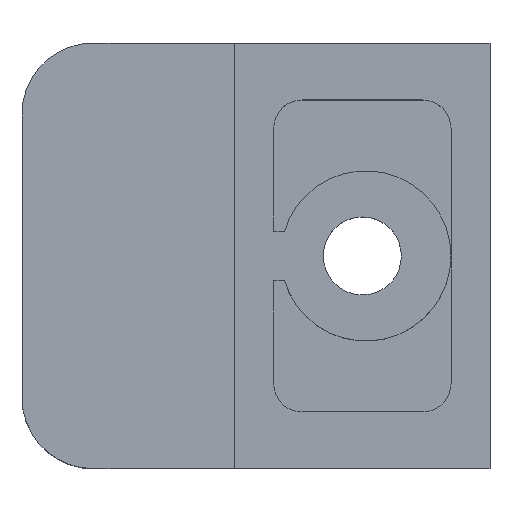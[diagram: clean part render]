
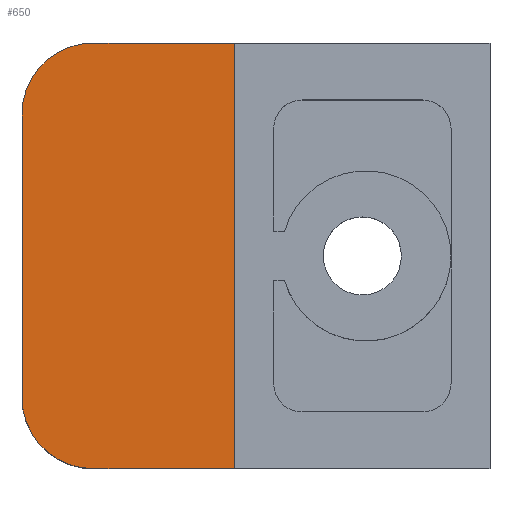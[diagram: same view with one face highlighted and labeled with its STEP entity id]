
A CAD part, top view. The second image highlights one B-rep face of the part: STEP entity #650.
In plain terms, the highlighted planar face has unit normal (0, 0, -1).
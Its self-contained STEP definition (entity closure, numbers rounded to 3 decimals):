
#1 = AXIS2_PLACEMENT_3D ( 'NONE', #960, #849, #787 ) ;
#36 = FACE_OUTER_BOUND ( 'NONE', #493, .T. ) ;
#50 = EDGE_CURVE ( 'NONE', #301, #413, #483, .T. ) ;
#55 = VECTOR ( 'NONE', #991, 1000. ) ;
#107 = CARTESIAN_POINT ( 'NONE',  ( 25557.116, 14568.807, 15. ) ) ;
#109 = CARTESIAN_POINT ( 'NONE',  ( 25547.116, 14538.807, 15. ) ) ;
#157 = DIRECTION ( 'NONE',  ( 0., 0., -1. ) ) ;
#218 = CARTESIAN_POINT ( 'NONE',  ( 25547.116, 14543.807, 15. ) ) ;
#231 = ORIENTED_EDGE ( 'NONE', *, *, #654, .T. ) ;
#301 = VERTEX_POINT ( 'NONE', #109 ) ;
#357 = EDGE_CURVE ( 'NONE', #413, #407, #1019, .T. ) ;
#406 = DIRECTION ( 'NONE',  ( 0., 1., 0. ) ) ;
#407 = VERTEX_POINT ( 'NONE', #1013 ) ;
#413 = VERTEX_POINT ( 'NONE', #1000 ) ;
#429 = DIRECTION ( 'NONE',  ( -1., 0., 0. ) ) ;
#443 = VERTEX_POINT ( 'NONE', #990 ) ;
#454 = CARTESIAN_POINT ( 'NONE',  ( 25575.116, 14538.807, 15. ) ) ;
#483 = CIRCLE ( 'NONE', #503, 5. ) ;
#489 = CARTESIAN_POINT ( 'NONE',  ( 25542.116, 14543.807, 15. ) ) ;
#492 = LINE ( 'NONE', #902, #918 ) ;
#493 = EDGE_LOOP ( 'NONE', ( #693, #231, #674, #811, #599, #889 ) ) ;
#503 = AXIS2_PLACEMENT_3D ( 'NONE', #218, #157, #764 ) ;
#518 = DIRECTION ( 'NONE',  ( 0., 0., -1. ) ) ;
#524 = CARTESIAN_POINT ( 'NONE',  ( 25547.116, 14563.807, 15. ) ) ;
#599 = ORIENTED_EDGE ( 'NONE', *, *, #635, .T. ) ;
#632 = VERTEX_POINT ( 'NONE', #107 ) ;
#635 = EDGE_CURVE ( 'NONE', #443, #301, #715, .T. ) ;
#650 = ADVANCED_FACE ( 'sweep_end_face', ( #36 ), #865, .F. ) ;
#654 = EDGE_CURVE ( 'NONE', #407, #880, #685, .T. ) ;
#673 = LINE ( 'NONE', #816, #55 ) ;
#674 = ORIENTED_EDGE ( 'NONE', *, *, #922, .T. ) ;
#685 = CIRCLE ( 'NONE', #851, 5. ) ;
#693 = ORIENTED_EDGE ( 'NONE', *, *, #357, .T. ) ;
#715 = LINE ( 'NONE', #454, #917 ) ;
#764 = DIRECTION ( 'NONE',  ( 1., 0., 0. ) ) ;
#787 = DIRECTION ( 'NONE',  ( 1., 0., 0. ) ) ;
#811 = ORIENTED_EDGE ( 'NONE', *, *, #1040, .F. ) ;
#812 = DIRECTION ( 'NONE',  ( 0., 1., 0. ) ) ;
#816 = CARTESIAN_POINT ( 'NONE',  ( 25557.116, 14568.807, 15. ) ) ;
#849 = DIRECTION ( 'NONE',  ( 0., 0., 1. ) ) ;
#851 = AXIS2_PLACEMENT_3D ( 'NONE', #524, #518, #1004 ) ;
#865 = PLANE ( 'NONE',  #1 ) ;
#880 = VERTEX_POINT ( 'NONE', #893 ) ;
#889 = ORIENTED_EDGE ( 'NONE', *, *, #50, .T. ) ;
#893 = CARTESIAN_POINT ( 'NONE',  ( 25547.116, 14568.807, 15. ) ) ;
#902 = CARTESIAN_POINT ( 'NONE',  ( 25557.116, 14553.807, 15. ) ) ;
#917 = VECTOR ( 'NONE', #429, 1000. ) ;
#918 = VECTOR ( 'NONE', #812, 1000. ) ;
#922 = EDGE_CURVE ( 'NONE', #880, #632, #673, .T. ) ;
#960 = CARTESIAN_POINT ( 'NONE',  ( 25550.045, 14553.807, 15. ) ) ;
#990 = CARTESIAN_POINT ( 'NONE',  ( 25557.116, 14538.807, 15. ) ) ;
#991 = DIRECTION ( 'NONE',  ( 1., 0., 0. ) ) ;
#998 = VECTOR ( 'NONE', #406, 1000. ) ;
#1000 = CARTESIAN_POINT ( 'NONE',  ( 25542.116, 14543.807, 15. ) ) ;
#1004 = DIRECTION ( 'NONE',  ( 1., 0., 0. ) ) ;
#1013 = CARTESIAN_POINT ( 'NONE',  ( 25542.116, 14563.807, 15. ) ) ;
#1019 = LINE ( 'NONE', #489, #998 ) ;
#1040 = EDGE_CURVE ( 'NONE', #443, #632, #492, .T. ) ;
